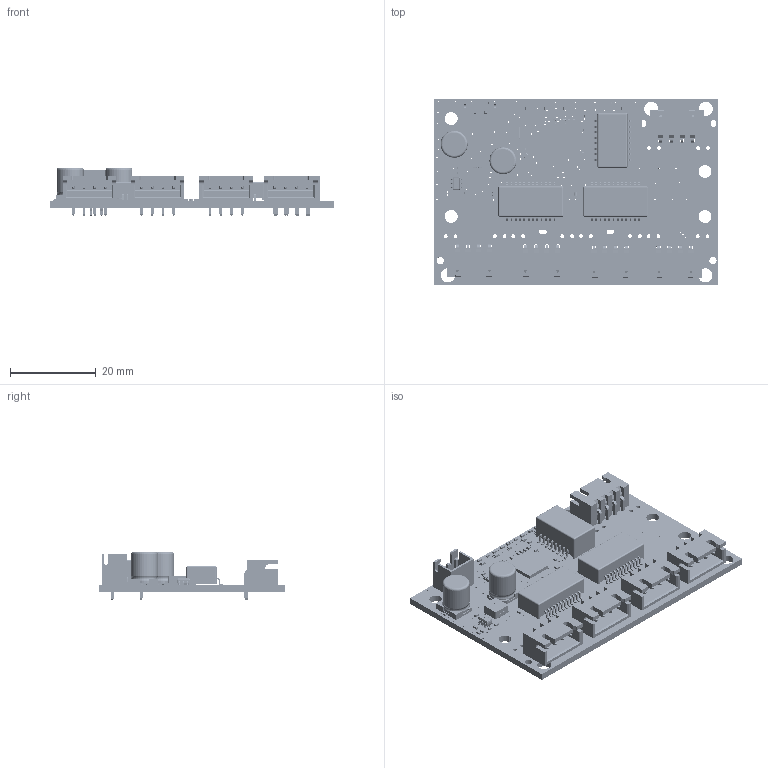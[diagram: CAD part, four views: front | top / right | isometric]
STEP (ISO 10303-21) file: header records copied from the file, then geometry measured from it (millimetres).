
FILE_DESCRIPTION(('Designed by EasyEDA Pro'),'2;1');
FILE_NAME('Open CASCADE Shape Model','2024-07-09T09:30:12',('Author'),( 'Open CASCADE'),'Open CASCADE STEP processor 7.8','Open CASCADE 7.8' ,'Unknown');
FILE_SCHEMA(('AUTOMOTIVE_DESIGN { 1 0 10303 214 1 1 1 1 }'));
Length unit declared in the file: millimetre
Products named in the file (94): PCBModel; TopTrack; BottomTrack; Board; x6Ql-C10; 0402; SOLID; x6Ql-C11; x6Ql-C13; x6Ql-C14; x6Ql-C15; x6Ql-C16; x6Ql-C17; x6Ql-C18; x6Ql-C19; x6Ql-C2; x6Ql-C20; x6Ql-C25; x6Ql-C37; x6Ql-C7; x6Ql-C8; x6Ql-C21; C0402; x6Ql-C22; x6Ql-C3; x6Ql-C4; x6Ql-C5; x6Ql-C1; x6Ql-R11; x6Ql-R12; x6Ql-R13; x6Ql-R14; x6Ql-R15; x6Ql-R2; x6Ql-R20; x6Ql-R21; x6Ql-R22; x6Ql-R23; x6Ql-R24; x6Ql-R26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
Assembly tree (141 placements, depth 4):
  PCBModel
    TopTrack
    BottomTrack
    Board
    x6Ql-C10
      0402
        SOLID
    x6Ql-C11
      0402
        SOLID
    x6Ql-C13
      0402
        SOLID
    x6Ql-C14
      0402
        SOLID
    x6Ql-C15
      0402
        SOLID
    x6Ql-C16
      0402
        SOLID
    x6Ql-C17
      0402
        SOLID
    x6Ql-C18
      0402
        SOLID
    x6Ql-C19
      0402
        SOLID
    x6Ql-C2
      0402
        SOLID
    x6Ql-C20
      0402
        SOLID
    x6Ql-C25
      0402
        SOLID
    x6Ql-C37
      0402
        SOLID
    x6Ql-C7
      0402
        SOLID
    x6Ql-C8
      0402
        SOLID
    x6Ql-C21
      C0402
        SOLID
    x6Ql-C22
      C0402
        SOLID
    x6Ql-C3
      C0402
        SOLID
    x6Ql-C4
      C0402
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Bounding box: 65.92 x 43.41 x 11.15 mm (x, y, z)
Volume: 7977.3 mm3; surface area: 12724.6 mm2
Topology: 252 solids, 252 shells, 23825 faces, 63828 edges, 41676 vertices
Faces by surface type: plane 13427, bspline 6621, cylinder 3283, sphere 402, torus 92
Entity records: 318306 total; most frequent: CARTESIAN_POINT 76587, ORIENTED_EDGE 39582, DIRECTION 30761, EDGE_CURVE 19791, LINE 13189, VECTOR 13189, VERTEX_POINT 13136, AXIS2_PLACEMENT_3D 8786
